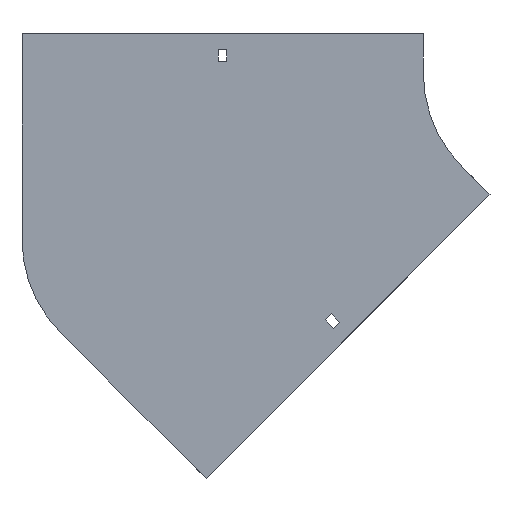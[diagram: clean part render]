
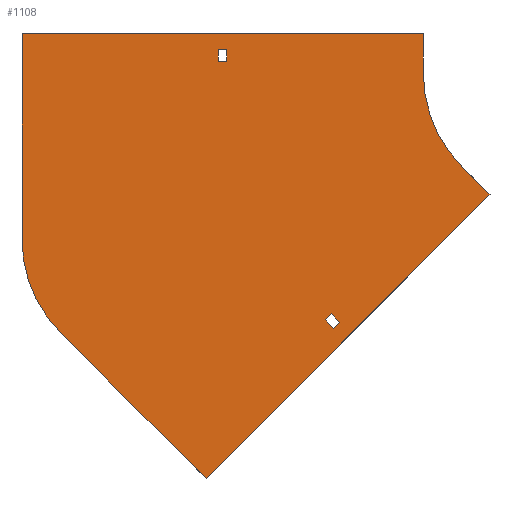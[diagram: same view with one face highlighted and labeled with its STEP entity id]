
A CAD part, front view. The second image highlights one B-rep face of the part: STEP entity #1108.
In plain terms, the highlighted planar face has unit normal (0, -1, 0).
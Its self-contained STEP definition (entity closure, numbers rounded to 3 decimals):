
#9 = EDGE_CURVE ( 'NONE', #1190, #1337, #460, .T. ) ;
#17 = CARTESIAN_POINT ( 'NONE',  ( -100., 0., 30. ) ) ;
#26 = EDGE_CURVE ( 'NONE', #962, #657, #140, .T. ) ;
#78 = ORIENTED_EDGE ( 'NONE', *, *, #1201, .F. ) ;
#87 = CARTESIAN_POINT ( 'NONE',  ( -255.25, 0., 9. ) ) ;
#103 = ORIENTED_EDGE ( 'NONE', *, *, #977, .F. ) ;
#106 = VERTEX_POINT ( 'NONE', #817 ) ;
#113 = ORIENTED_EDGE ( 'NONE', *, *, #617, .F. ) ;
#117 = VECTOR ( 'NONE', #190, 1000. ) ;
#124 = CARTESIAN_POINT ( 'NONE',  ( -167.761, 0., -193.217 ) ) ;
#133 = CARTESIAN_POINT ( 'NONE',  ( -404., 0., -125.921 ) ) ;
#134 = CIRCLE ( 'NONE', #1151, 100. ) ;
#140 = LINE ( 'NONE', #226, #269 ) ;
#142 = DIRECTION ( 'NONE',  ( 0.707, 0., 0.707 ) ) ;
#143 = CARTESIAN_POINT ( 'NONE',  ( -49.497, 0., -91.924 ) ) ;
#153 = ORIENTED_EDGE ( 'NONE', *, *, #668, .T. ) ;
#163 = CARTESIAN_POINT ( 'NONE',  ( 0., 0., 0. ) ) ;
#165 = DIRECTION ( 'NONE',  ( -1., 0., 0. ) ) ;
#190 = DIRECTION ( 'NONE',  ( 0., 0., 1. ) ) ;
#192 = VERTEX_POINT ( 'NONE', #937 ) ;
#203 = CARTESIAN_POINT ( 'NONE',  ( -169.529, 0., -182.257 ) ) ;
#216 = LINE ( 'NONE', #143, #680 ) ;
#226 = CARTESIAN_POINT ( 'NONE',  ( -169.529, 0., -182.257 ) ) ;
#250 = FACE_OUTER_BOUND ( 'NONE', #1182, .T. ) ;
#257 = CARTESIAN_POINT ( 'NONE',  ( -304., 0., -125.921 ) ) ;
#259 = LINE ( 'NONE', #458, #1022 ) ;
#263 = DIRECTION ( 'NONE',  ( 0., 0., 1. ) ) ;
#267 = CARTESIAN_POINT ( 'NONE',  ( -255.25, 0., 18. ) ) ;
#269 = VECTOR ( 'NONE', #694, 1000. ) ;
#284 = EDGE_CURVE ( 'NONE', #192, #579, #1074, .T. ) ;
#291 = VECTOR ( 'NONE', #142, 1000. ) ;
#293 = VECTOR ( 'NONE', #739, 1000. ) ;
#298 = ORIENTED_EDGE ( 'NONE', *, *, #606, .F. ) ;
#300 = CARTESIAN_POINT ( 'NONE',  ( -174.125, 0., -186.853 ) ) ;
#321 = LINE ( 'NONE', #746, #293 ) ;
#335 = ORIENTED_EDGE ( 'NONE', *, *, #1308, .T. ) ;
#350 = CARTESIAN_POINT ( 'NONE',  ( -167.761, 0., -193.217 ) ) ;
#355 = VERTEX_POINT ( 'NONE', #1192 ) ;
#370 = LINE ( 'NONE', #837, #978 ) ;
#389 = ORIENTED_EDGE ( 'NONE', *, *, #1257, .F. ) ;
#392 = CARTESIAN_POINT ( 'NONE',  ( -255.25, 0., 9. ) ) ;
#406 = VECTOR ( 'NONE', #1377, 1000. ) ;
#456 = CARTESIAN_POINT ( 'NONE',  ( -100., 0., 30. ) ) ;
#458 = CARTESIAN_POINT ( 'NONE',  ( -70.711, 0., -70.711 ) ) ;
#460 = LINE ( 'NONE', #17, #736 ) ;
#461 = VERTEX_POINT ( 'NONE', #124 ) ;
#466 = CARTESIAN_POINT ( 'NONE',  ( -248.75, 0., 18. ) ) ;
#474 = DIRECTION ( 'NONE',  ( 0.707, 0., -0.707 ) ) ;
#480 = VERTEX_POINT ( 'NONE', #466 ) ;
#492 = CARTESIAN_POINT ( 'NONE',  ( -404., 0., 30. ) ) ;
#505 = EDGE_CURVE ( 'NONE', #931, #192, #1142, .T. ) ;
#517 = DIRECTION ( 'NONE',  ( 0.707, 0., -0.707 ) ) ;
#528 = VERTEX_POINT ( 'NONE', #492 ) ;
#547 = ORIENTED_EDGE ( 'NONE', *, *, #594, .F. ) ;
#576 = LINE ( 'NONE', #692, #954 ) ;
#579 = VERTEX_POINT ( 'NONE', #267 ) ;
#594 = EDGE_CURVE ( 'NONE', #355, #1246, #370, .T. ) ;
#596 = DIRECTION ( 'NONE',  ( 0., 0., -1. ) ) ;
#606 = EDGE_CURVE ( 'NONE', #106, #461, #761, .T. ) ;
#617 = EDGE_CURVE ( 'NONE', #657, #106, #1285, .T. ) ;
#618 = VERTEX_POINT ( 'NONE', #852 ) ;
#623 = DIRECTION ( 'NONE',  ( 0., 0., -1. ) ) ;
#657 = VERTEX_POINT ( 'NONE', #203 ) ;
#668 = EDGE_CURVE ( 'NONE', #579, #480, #321, .T. ) ;
#680 = VECTOR ( 'NONE', #994, 1000. ) ;
#692 = CARTESIAN_POINT ( 'NONE',  ( -248.75, 0., 9. ) ) ;
#694 = DIRECTION ( 'NONE',  ( -0.707, 0., 0.707 ) ) ;
#698 = CARTESIAN_POINT ( 'NONE',  ( -374.711, 0., -196.632 ) ) ;
#707 = DIRECTION ( 'NONE',  ( 0., 1., 0. ) ) ;
#726 = DIRECTION ( 'NONE',  ( 0., -1., 0. ) ) ;
#736 = VECTOR ( 'NONE', #1007, 1000. ) ;
#739 = DIRECTION ( 'NONE',  ( 1., 0., 0. ) ) ;
#746 = CARTESIAN_POINT ( 'NONE',  ( -255.25, 0., 18. ) ) ;
#747 = EDGE_CURVE ( 'NONE', #618, #355, #216, .T. ) ;
#760 = EDGE_LOOP ( 'NONE', ( #1064, #153, #335, #1288 ) ) ;
#761 = LINE ( 'NONE', #858, #955 ) ;
#791 = FACE_BOUND ( 'NONE', #760, .T. ) ;
#817 = CARTESIAN_POINT ( 'NONE',  ( -174.125, 0., -186.853 ) ) ;
#837 = CARTESIAN_POINT ( 'NONE',  ( -264.458, 0., -306.884 ) ) ;
#840 = DIRECTION ( 'NONE',  ( 1., 0., 0. ) ) ;
#841 = VERTEX_POINT ( 'NONE', #133 ) ;
#849 = DIRECTION ( 'NONE',  ( 0., 0., 1. ) ) ;
#852 = CARTESIAN_POINT ( 'NONE',  ( -49.497, 0., -91.924 ) ) ;
#855 = CARTESIAN_POINT ( 'NONE',  ( -404., 0., -125.921 ) ) ;
#858 = CARTESIAN_POINT ( 'NONE',  ( -174.125, 0., -186.853 ) ) ;
#887 = VECTOR ( 'NONE', #849, 1000. ) ;
#891 = EDGE_CURVE ( 'NONE', #841, #528, #1027, .T. ) ;
#896 = EDGE_CURVE ( 'NONE', #1337, #1056, #997, .T. ) ;
#912 = FACE_BOUND ( 'NONE', #1116, .T. ) ;
#921 = CARTESIAN_POINT ( 'NONE',  ( -100., 0., 0. ) ) ;
#931 = VERTEX_POINT ( 'NONE', #1392 ) ;
#934 = VECTOR ( 'NONE', #165, 1000. ) ;
#937 = CARTESIAN_POINT ( 'NONE',  ( -255.25, 0., 9. ) ) ;
#945 = CARTESIAN_POINT ( 'NONE',  ( -163.165, 0., -188.621 ) ) ;
#952 = CARTESIAN_POINT ( 'NONE',  ( 0., 0., 0. ) ) ;
#954 = VECTOR ( 'NONE', #1233, 1000. ) ;
#955 = VECTOR ( 'NONE', #517, 1000. ) ;
#962 = VERTEX_POINT ( 'NONE', #945 ) ;
#977 = EDGE_CURVE ( 'NONE', #528, #1190, #1260, .T. ) ;
#978 = VECTOR ( 'NONE', #1356, 1000. ) ;
#992 = ORIENTED_EDGE ( 'NONE', *, *, #1098, .F. ) ;
#994 = DIRECTION ( 'NONE',  ( -0.707, 0., -0.707 ) ) ;
#997 = CIRCLE ( 'NONE', #1406, 100. ) ;
#1007 = DIRECTION ( 'NONE',  ( 0., 0., -1. ) ) ;
#1022 = VECTOR ( 'NONE', #474, 1000. ) ;
#1027 = LINE ( 'NONE', #855, #887 ) ;
#1056 = VERTEX_POINT ( 'NONE', #1298 ) ;
#1064 = ORIENTED_EDGE ( 'NONE', *, *, #284, .T. ) ;
#1074 = LINE ( 'NONE', #87, #117 ) ;
#1098 = EDGE_CURVE ( 'NONE', #1246, #841, #134, .T. ) ;
#1108 = ADVANCED_FACE ( 'NONE', ( #791, #250, #912 ), #1136, .T. ) ;
#1116 = EDGE_LOOP ( 'NONE', ( #78, #298, #113, #1400 ) ) ;
#1127 = DIRECTION ( 'NONE',  ( 0., -1., 0. ) ) ;
#1136 = PLANE ( 'NONE',  #1244 ) ;
#1142 = LINE ( 'NONE', #392, #934 ) ;
#1151 = AXIS2_PLACEMENT_3D ( 'NONE', #257, #707, #263 ) ;
#1182 = EDGE_LOOP ( 'NONE', ( #103, #1380, #992, #547, #1362, #389, #1193, #1259 ) ) ;
#1190 = VERTEX_POINT ( 'NONE', #456 ) ;
#1192 = CARTESIAN_POINT ( 'NONE',  ( -264.458, 0., -306.884 ) ) ;
#1193 = ORIENTED_EDGE ( 'NONE', *, *, #896, .F. ) ;
#1201 = EDGE_CURVE ( 'NONE', #461, #962, #1322, .T. ) ;
#1216 = VECTOR ( 'NONE', #840, 1000. ) ;
#1233 = DIRECTION ( 'NONE',  ( 0., 0., -1. ) ) ;
#1244 = AXIS2_PLACEMENT_3D ( 'NONE', #163, #1127, #596 ) ;
#1246 = VERTEX_POINT ( 'NONE', #698 ) ;
#1257 = EDGE_CURVE ( 'NONE', #1056, #618, #259, .T. ) ;
#1259 = ORIENTED_EDGE ( 'NONE', *, *, #9, .F. ) ;
#1260 = LINE ( 'NONE', #1267, #1216 ) ;
#1267 = CARTESIAN_POINT ( 'NONE',  ( -404., 0., 30. ) ) ;
#1285 = LINE ( 'NONE', #300, #406 ) ;
#1288 = ORIENTED_EDGE ( 'NONE', *, *, #505, .T. ) ;
#1298 = CARTESIAN_POINT ( 'NONE',  ( -70.711, 0., -70.711 ) ) ;
#1308 = EDGE_CURVE ( 'NONE', #480, #931, #576, .T. ) ;
#1322 = LINE ( 'NONE', #350, #291 ) ;
#1337 = VERTEX_POINT ( 'NONE', #921 ) ;
#1356 = DIRECTION ( 'NONE',  ( -0.707, 0., 0.707 ) ) ;
#1362 = ORIENTED_EDGE ( 'NONE', *, *, #747, .F. ) ;
#1377 = DIRECTION ( 'NONE',  ( -0.707, 0., -0.707 ) ) ;
#1380 = ORIENTED_EDGE ( 'NONE', *, *, #891, .F. ) ;
#1392 = CARTESIAN_POINT ( 'NONE',  ( -248.75, 0., 9. ) ) ;
#1400 = ORIENTED_EDGE ( 'NONE', *, *, #26, .F. ) ;
#1406 = AXIS2_PLACEMENT_3D ( 'NONE', #952, #726, #623 ) ;
